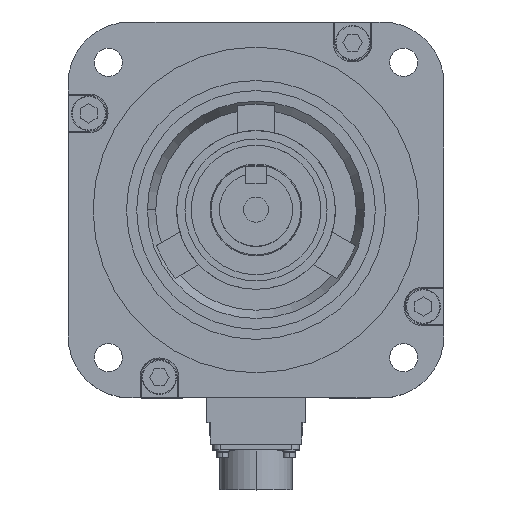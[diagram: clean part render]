
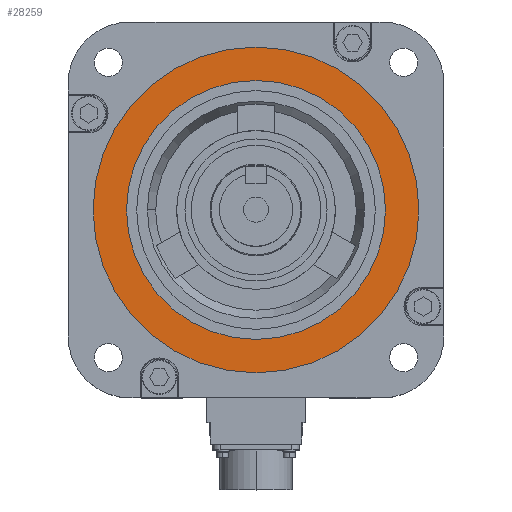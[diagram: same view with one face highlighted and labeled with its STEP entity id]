
A CAD part, top view. The second image highlights one B-rep face of the part: STEP entity #28259.
In plain terms, the highlighted planar face has unit normal (0, 0, 1).
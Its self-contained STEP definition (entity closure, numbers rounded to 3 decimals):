
#5347 = CARTESIAN_POINT ( 'NONE',  ( 78., 0., -0.5 ) ) ;
#5348 = CARTESIAN_POINT ( 'NONE',  ( -78., 0., -0.5 ) ) ;
#5349 = DIRECTION ( 'NONE',  ( 1., 0., 0. ) ) ;
#5350 = DIRECTION ( 'NONE',  ( 0., 0., 1. ) ) ;
#5352 = CARTESIAN_POINT ( 'NONE',  ( 0., 0., -0.5 ) ) ;
#5353 = AXIS2_PLACEMENT_3D ( 'NONE', #5352, #5350, #5349 ) ;
#5359 = CIRCLE ( 'NONE', #5353, 78. ) ;
#5489 = CARTESIAN_POINT ( 'NONE',  ( 62., 0., -0.5 ) ) ;
#5546 = CARTESIAN_POINT ( 'NONE',  ( -62., 0., -0.5 ) ) ;
#5547 = DIRECTION ( 'NONE',  ( 1., 0., 0. ) ) ;
#5548 = DIRECTION ( 'NONE',  ( 0., 0., 1. ) ) ;
#5549 = CARTESIAN_POINT ( 'NONE',  ( 0., 0., -0.5 ) ) ;
#5550 = AXIS2_PLACEMENT_3D ( 'NONE', #5549, #5548, #5547 ) ;
#5551 = CIRCLE ( 'NONE', #5550, 62. ) ;
#11246 = DIRECTION ( 'NONE',  ( 1., 0., 0. ) ) ;
#11247 = DIRECTION ( 'NONE',  ( 0., 0., 1. ) ) ;
#11249 = CARTESIAN_POINT ( 'NONE',  ( 0., 0., -0.5 ) ) ;
#11250 = AXIS2_PLACEMENT_3D ( 'NONE', #11249, #11247, #11246 ) ;
#11251 = CIRCLE ( 'NONE', #11250, 62. ) ;
#11301 = DIRECTION ( 'NONE',  ( 1., 0., 0. ) ) ;
#11302 = DIRECTION ( 'NONE',  ( 0., 0., 1. ) ) ;
#11303 = CARTESIAN_POINT ( 'NONE',  ( 0., 0., -0.5 ) ) ;
#11304 = AXIS2_PLACEMENT_3D ( 'NONE', #11303, #11302, #11301 ) ;
#11305 = CIRCLE ( 'NONE', #11304, 78. ) ;
#11324 = DIRECTION ( 'NONE',  ( 1., 0., 0. ) ) ;
#11326 = DIRECTION ( 'NONE',  ( 0., 0., 1. ) ) ;
#11327 = CARTESIAN_POINT ( 'NONE',  ( 0., 0., -0.5 ) ) ;
#11328 = AXIS2_PLACEMENT_3D ( 'NONE', #11327, #11326, #11324 ) ;
#11329 = PLANE ( 'NONE',  #11328 ) ;
#11330 = FACE_BOUND ( 'NONE', #28194, .T. ) ;
#11331 = FACE_OUTER_BOUND ( 'NONE', #28254, .T. ) ;
#17003 = EDGE_CURVE ( 'NONE', #17004, #17005, #5359, .T. ) ;
#17004 = VERTEX_POINT ( 'NONE', #5348 ) ;
#17005 = VERTEX_POINT ( 'NONE', #5347 ) ;
#17067 = VERTEX_POINT ( 'NONE', #5489 ) ;
#17069 = EDGE_CURVE ( 'NONE', #17067, #17070, #5551, .T. ) ;
#17070 = VERTEX_POINT ( 'NONE', #5546 ) ;
#28187 = ORIENTED_EDGE ( 'NONE', *, *, #17003, .T. ) ;
#28188 = ORIENTED_EDGE ( 'NONE', *, *, #28197, .F. ) ;
#28194 = EDGE_LOOP ( 'NONE', ( #28188, #28377 ) ) ;
#28197 = EDGE_CURVE ( 'NONE', #17070, #17067, #11251, .T. ) ;
#28231 = EDGE_CURVE ( 'NONE', #17005, #17004, #11305, .T. ) ;
#28252 = ORIENTED_EDGE ( 'NONE', *, *, #28231, .T. ) ;
#28254 = EDGE_LOOP ( 'NONE', ( #28252, #28187 ) ) ;
#28259 = ADVANCED_FACE ( 'NONE', ( #11331, #11330 ), #11329, .T. ) ;
#28377 = ORIENTED_EDGE ( 'NONE', *, *, #17069, .F. ) ;
